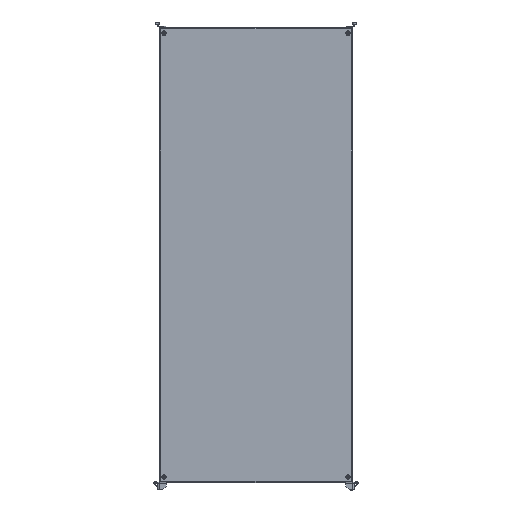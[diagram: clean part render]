
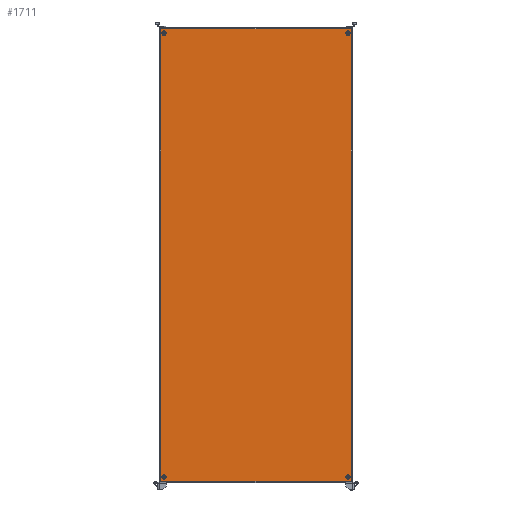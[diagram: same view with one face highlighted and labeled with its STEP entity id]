
A CAD part, top view. The second image highlights one B-rep face of the part: STEP entity #1711.
In plain terms, the highlighted planar face has unit normal (0, 0, 1).
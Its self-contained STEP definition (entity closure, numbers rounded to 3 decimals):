
#1711=ADVANCED_FACE('',(#9131,#9133,#9135,#9137,#9139),#9141,.T.);
#9131=FACE_BOUND('',#9132,.T.);
#9132=EDGE_LOOP('',(#16158,#16159,#16160,#16161));
#9133=FACE_BOUND('',#9134,.T.);
#9134=EDGE_LOOP('',(#16162));
#9135=FACE_BOUND('',#9136,.T.);
#9136=EDGE_LOOP('',(#16163));
#9137=FACE_BOUND('',#9138,.T.);
#9138=EDGE_LOOP('',(#16164));
#9139=FACE_BOUND('',#9140,.T.);
#9140=EDGE_LOOP('',(#16165));
#9141=PLANE('',#9142);
#9142=AXIS2_PLACEMENT_3D('',#9143,#9144,#9145);
#9143=CARTESIAN_POINT('',(0.,0.,3.));
#9144=DIRECTION('',(0.,0.,1.));
#9145=DIRECTION('',(1.,0.,0.));
#16158=ORIENTED_EDGE('',*,*,#19815,.T.);
#16159=ORIENTED_EDGE('',*,*,#19662,.T.);
#16160=ORIENTED_EDGE('',*,*,#19816,.T.);
#16161=ORIENTED_EDGE('',*,*,#19817,.T.);
#16162=ORIENTED_EDGE('',*,*,#19818,.T.);
#16163=ORIENTED_EDGE('',*,*,#19819,.T.);
#16164=ORIENTED_EDGE('',*,*,#19820,.T.);
#16165=ORIENTED_EDGE('',*,*,#19821,.T.);
#19662=EDGE_CURVE('',#21904,#21906,#21908,.T.);
#19815=EDGE_CURVE('',#22145,#21904,#22146,.T.);
#19816=EDGE_CURVE('',#21906,#22147,#22148,.T.);
#19817=EDGE_CURVE('',#22147,#22145,#22149,.T.);
#19818=EDGE_CURVE('',#22150,#22150,#22151,.F.);
#19819=EDGE_CURVE('',#22152,#22152,#22153,.F.);
#19820=EDGE_CURVE('',#22154,#22154,#22155,.F.);
#19821=EDGE_CURVE('',#22156,#22156,#22157,.F.);
#21904=VERTEX_POINT('',#27342);
#21906=VERTEX_POINT('',#27347);
#21908=LINE('',#27352,#27353);
#22145=VERTEX_POINT('',#27940);
#22146=LINE('',#27941,#27942);
#22147=VERTEX_POINT('',#27944);
#22148=LINE('',#27945,#27946);
#22149=LINE('',#27948,#27949);
#22150=VERTEX_POINT('',#27951);
#22151=CIRCLE('',#27952,10.);
#22152=VERTEX_POINT('',#27956);
#22153=CIRCLE('',#27957,10.);
#22154=VERTEX_POINT('',#27961);
#22155=CIRCLE('',#27962,10.);
#22156=VERTEX_POINT('',#27966);
#22157=CIRCLE('',#27967,10.);
#27342=CARTESIAN_POINT('',(5.6,2084.4,3.));
#27347=CARTESIAN_POINT('',(5.6,5.6,3.));
#27352=CARTESIAN_POINT('',(5.6,2084.4,3.));
#27353=VECTOR('',#27354,1.);
#27354=DIRECTION('',(0.,-1.,0.));
#27940=CARTESIAN_POINT('',(879.4,2084.4,3.));
#27941=CARTESIAN_POINT('',(879.4,2084.4,3.));
#27942=VECTOR('',#27943,1.);
#27943=DIRECTION('',(-1.,0.,0.));
#27944=CARTESIAN_POINT('',(879.4,5.6,3.));
#27945=CARTESIAN_POINT('',(5.6,5.6,3.));
#27946=VECTOR('',#27947,1.);
#27947=DIRECTION('',(1.,0.,0.));
#27948=CARTESIAN_POINT('',(879.4,5.6,3.));
#27949=VECTOR('',#27950,1.);
#27950=DIRECTION('',(0.,1.,0.));
#27951=CARTESIAN_POINT('',(30.,25.,3.));
#27952=AXIS2_PLACEMENT_3D('',#27953,#27954,#27955);
#27953=CARTESIAN_POINT('',(20.,25.,3.));
#27954=DIRECTION('',(0.,0.,1.));
#27955=DIRECTION('',(1.,0.,0.));
#27956=CARTESIAN_POINT('',(875.,2065.,3.));
#27957=AXIS2_PLACEMENT_3D('',#27958,#27959,#27960);
#27958=CARTESIAN_POINT('',(865.,2065.,3.));
#27959=DIRECTION('',(0.,0.,1.));
#27960=DIRECTION('',(1.,0.,0.));
#27961=CARTESIAN_POINT('',(30.,2065.,3.));
#27962=AXIS2_PLACEMENT_3D('',#27963,#27964,#27965);
#27963=CARTESIAN_POINT('',(20.,2065.,3.));
#27964=DIRECTION('',(0.,0.,1.));
#27965=DIRECTION('',(1.,0.,0.));
#27966=CARTESIAN_POINT('',(875.,25.,3.));
#27967=AXIS2_PLACEMENT_3D('',#27968,#27969,#27970);
#27968=CARTESIAN_POINT('',(865.,25.,3.));
#27969=DIRECTION('',(0.,0.,1.));
#27970=DIRECTION('',(1.,0.,0.));
